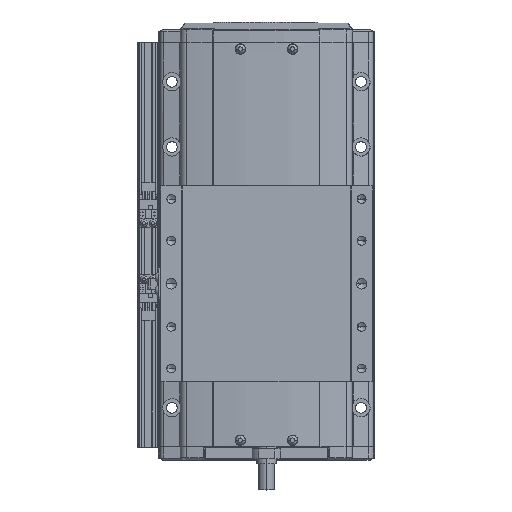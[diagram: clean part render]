
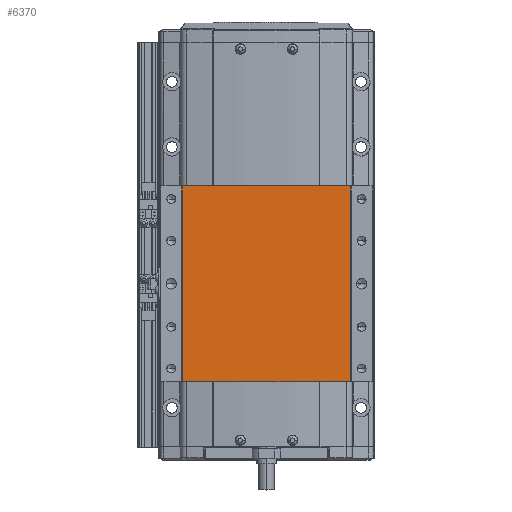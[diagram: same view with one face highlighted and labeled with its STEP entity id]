
A CAD part, top view. The second image highlights one B-rep face of the part: STEP entity #6370.
In plain terms, the highlighted planar face has unit normal (0, 0, 1).
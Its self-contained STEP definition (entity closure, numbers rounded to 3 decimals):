
#6370=ADVANCED_FACE('',(#12956),#12957,.F.);
#12956=FACE_OUTER_BOUND('',#22023,.T.);
#12957=PLANE('',#22024);
#22023=EDGE_LOOP('',(#40336,#40337,#40338,#40339));
#22024=AXIS2_PLACEMENT_3D('',#40340,#40341,#40342);
#40336=ORIENTED_EDGE('',*,*,#45121,.F.);
#40337=ORIENTED_EDGE('',*,*,#50191,.F.);
#40338=ORIENTED_EDGE('',*,*,#45261,.F.);
#40339=ORIENTED_EDGE('',*,*,#47294,.T.);
#40340=CARTESIAN_POINT('',(-600.,347.222,51.5));
#40341=DIRECTION('',(0.,0.,-1.0));
#40342=DIRECTION('',(-1.0,0.,0.));
#45121=EDGE_CURVE('',#54834,#54836,#54837,.T.);
#45261=EDGE_CURVE('',#55075,#55077,#55078,.T.);
#47294=EDGE_CURVE('',#55075,#54836,#58172,.T.);
#50191=EDGE_CURVE('',#55077,#54834,#61781,.T.);
#54834=VERTEX_POINT('',#68256);
#54836=VERTEX_POINT('',#68258);
#54837=LINE('',#68259,#68260);
#55075=VERTEX_POINT('',#68574);
#55077=VERTEX_POINT('',#68576);
#55078=LINE('',#68577,#68578);
#58172=LINE('',#73022,#73023);
#61781=LINE('',#78719,#78720);
#68256=CARTESIAN_POINT('',(-664.376,497.222,51.5));
#68258=CARTESIAN_POINT('',(-535.624,497.222,51.5));
#68259=CARTESIAN_POINT('',(-535.624,497.222,51.5));
#68260=VECTOR('',#82369,10.0);
#68574=CARTESIAN_POINT('',(-535.624,347.222,51.5));
#68576=CARTESIAN_POINT('',(-664.376,347.222,51.5));
#68577=CARTESIAN_POINT('',(-535.624,347.222,51.5));
#68578=VECTOR('',#82608,10.0);
#73022=CARTESIAN_POINT('',(-535.624,347.222,51.5));
#73023=VECTOR('',#85075,10.0);
#78719=CARTESIAN_POINT('',(-664.376,347.222,51.5));
#78720=VECTOR('',#87738,10.0);
#82369=DIRECTION('',(1.0,0.,0.));
#82608=DIRECTION('',(-1.0,0.,0.));
#85075=DIRECTION('',(0.,1.0,0.));
#87738=DIRECTION('',(0.,1.0,0.));
